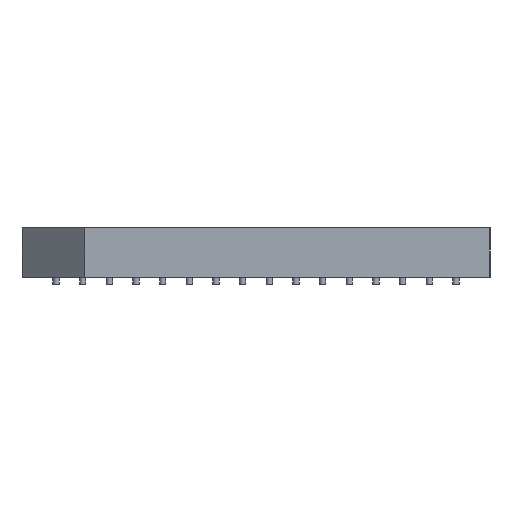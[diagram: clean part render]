
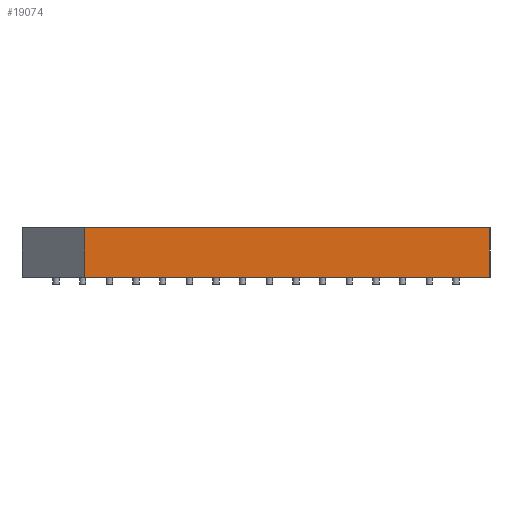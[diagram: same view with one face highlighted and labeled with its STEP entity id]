
A CAD part, left-side view. The second image highlights one B-rep face of the part: STEP entity #19074.
In plain terms, the highlighted planar face has unit normal (-1, 0, 0).
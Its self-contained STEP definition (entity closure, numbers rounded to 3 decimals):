
#17181=CARTESIAN_POINT('',(-16.1,-11.15,0.0));
#17182=VERTEX_POINT('',#17181);
#17189=CARTESIAN_POINT('',(-16.1,8.15,0.0));
#17190=VERTEX_POINT('',#17189);
#17191=CARTESIAN_POINT('',(-16.1,-11.15,0.0));
#17192=DIRECTION('',(0.0,1.0,0.0));
#17193=VECTOR('',#17192,19.3);
#17194=LINE('',#17191,#17193);
#17195=EDGE_CURVE('',#17182,#17190,#17194,.T.);
#18021=CARTESIAN_POINT('',(-16.1,-11.15,2.37));
#18022=VERTEX_POINT('',#18021);
#18029=CARTESIAN_POINT('',(-16.1,-11.15,0.0));
#18030=DIRECTION('',(0.0,0.0,1.0));
#18031=VECTOR('',#18030,2.37);
#18032=LINE('',#18029,#18031);
#18033=EDGE_CURVE('',#17182,#18022,#18032,.T.);
#18484=CARTESIAN_POINT('',(-16.1,8.15,2.37));
#18485=VERTEX_POINT('',#18484);
#18494=CARTESIAN_POINT('',(-16.1,8.15,0.0));
#18495=DIRECTION('',(0.0,0.0,1.0));
#18496=VECTOR('',#18495,2.37);
#18497=LINE('',#18494,#18496);
#18498=EDGE_CURVE('',#17190,#18485,#18497,.T.);
#18526=CARTESIAN_POINT('',(-16.1,-11.15,2.37));
#18527=DIRECTION('',(0.0,1.0,0.0));
#18528=VECTOR('',#18527,19.3);
#18529=LINE('',#18526,#18528);
#18530=EDGE_CURVE('',#18022,#18485,#18529,.T.);
#19063=CARTESIAN_POINT('',(-16.1,-12.115,-0.119));
#19064=DIRECTION('',(-1.0,0.0,0.0));
#19065=DIRECTION('',(0.0,0.0,1.0));
#19066=AXIS2_PLACEMENT_3D('',#19063,#19064,#19065);
#19067=PLANE('',#19066);
#19068=ORIENTED_EDGE('',*,*,#18498,.F.);
#19069=ORIENTED_EDGE('',*,*,#17195,.F.);
#19070=ORIENTED_EDGE('',*,*,#18033,.T.);
#19071=ORIENTED_EDGE('',*,*,#18530,.T.);
#19072=EDGE_LOOP('',(#19068,#19069,#19070,#19071));
#19073=FACE_OUTER_BOUND('',#19072,.T.);
#19074=ADVANCED_FACE('',(#19073),#19067,.T.);
